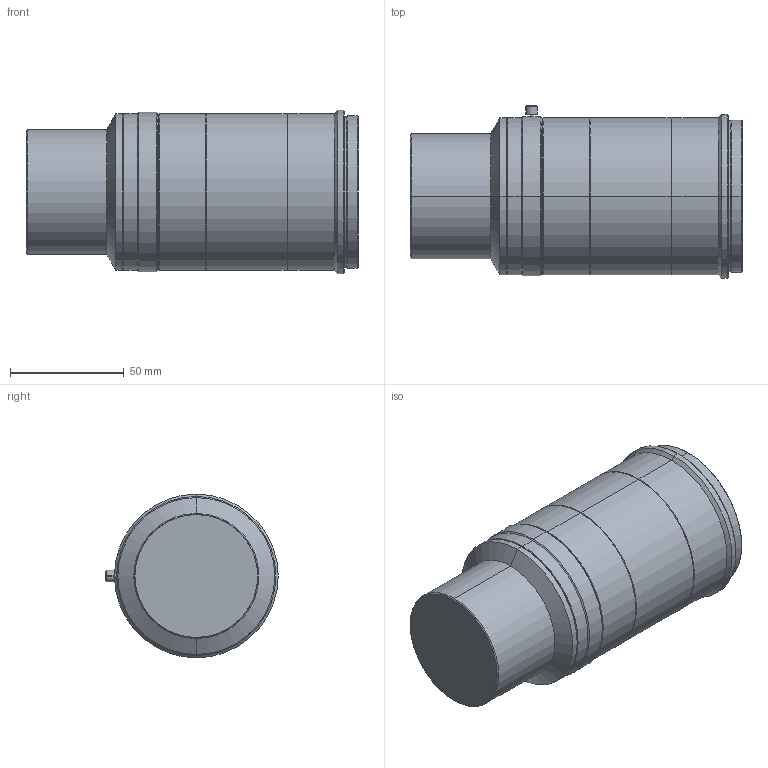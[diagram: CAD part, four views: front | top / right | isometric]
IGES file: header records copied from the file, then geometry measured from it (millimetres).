
Start section: SolidWorks IGES file using analytic representation for surfaces
Bounding box: 146 x 75.8 x 72 mm (x, y, z)
Surface area: 38717.1 mm2 (no closed solid volume)
Topology: 0 solids, 0 shells, 77 faces, 1166 edges, 1166 vertices
Faces by surface type: revolution 68, bspline 9
